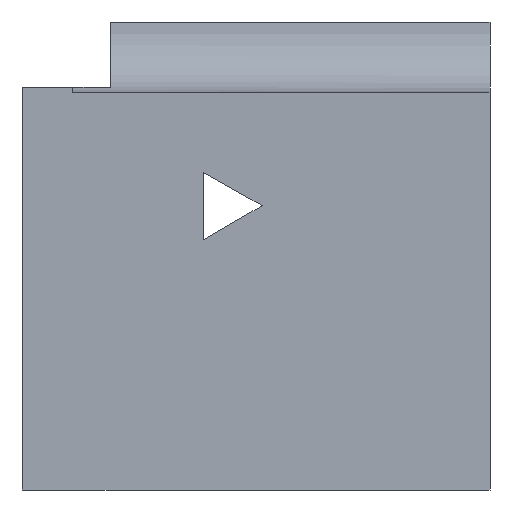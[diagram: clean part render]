
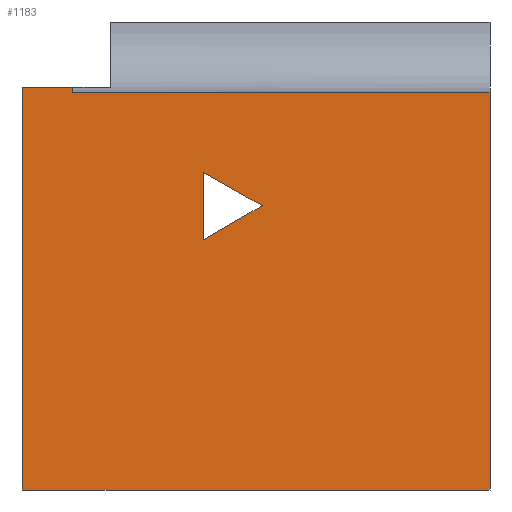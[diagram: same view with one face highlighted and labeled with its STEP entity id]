
A CAD part, front view. The second image highlights one B-rep face of the part: STEP entity #1183.
In plain terms, the highlighted planar face has unit normal (0, -1, 0).
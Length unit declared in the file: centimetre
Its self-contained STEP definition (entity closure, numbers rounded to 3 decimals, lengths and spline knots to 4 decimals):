
#19 = LINE ( 'NONE', #415, #308 ) ;
#36 = FACE_OUTER_BOUND ( 'NONE', #527, .T. ) ;
#37 = CARTESIAN_POINT ( 'NONE',  ( 0., 0., 0. ) ) ;
#72 = CARTESIAN_POINT ( 'NONE',  ( 1000., 0., 849.8948 ) ) ;
#79 = CARTESIAN_POINT ( 'NONE',  ( 388.8256, 0., 678.4747 ) ) ;
#97 = ORIENTED_EDGE ( 'NONE', *, *, #109, .T. ) ;
#109 = EDGE_CURVE ( 'NONE', #918, #299, #19, .T. ) ;
#110 = CARTESIAN_POINT ( 'NONE',  ( 0., 0., 1000. ) ) ;
#119 = VECTOR ( 'NONE', #624, 100. ) ;
#124 = ORIENTED_EDGE ( 'NONE', *, *, #816, .T. ) ;
#128 = EDGE_CURVE ( 'NONE', #413, #1018, #533, .T. ) ;
#139 = DIRECTION ( 'NONE',  ( -1., 0., 0. ) ) ;
#169 = LINE ( 'NONE', #963, #565 ) ;
#171 = EDGE_CURVE ( 'NONE', #827, #888, #426, .T. ) ;
#209 = EDGE_CURVE ( 'NONE', #797, #413, #642, .T. ) ;
#251 = VECTOR ( 'NONE', #1154, 100. ) ;
#299 = VERTEX_POINT ( 'NONE', #558 ) ;
#303 = CARTESIAN_POINT ( 'NONE',  ( 512.8318, 0., 607.5164 ) ) ;
#308 = VECTOR ( 'NONE', #525, 100. ) ;
#331 = LINE ( 'NONE', #509, #836 ) ;
#386 = EDGE_CURVE ( 'NONE', #918, #888, #169, .T. ) ;
#413 = VERTEX_POINT ( 'NONE', #303 ) ;
#415 = CARTESIAN_POINT ( 'NONE',  ( 108.5563, 0., 849.8948 ) ) ;
#426 = LINE ( 'NONE', #830, #725 ) ;
#435 = LINE ( 'NONE', #1127, #581 ) ;
#437 = CARTESIAN_POINT ( 'NONE',  ( 512.8318, 0., 607.5164 ) ) ;
#480 = ORIENTED_EDGE ( 'NONE', *, *, #171, .T. ) ;
#487 = VECTOR ( 'NONE', #139, 100. ) ;
#509 = CARTESIAN_POINT ( 'NONE',  ( 0., 0., 1000. ) ) ;
#525 = DIRECTION ( 'NONE',  ( -1., 0., 0. ) ) ;
#527 = EDGE_LOOP ( 'NONE', ( #807, #97, #1090, #124, #607, #480 ) ) ;
#533 = LINE ( 'NONE', #1228, #119 ) ;
#558 = CARTESIAN_POINT ( 'NONE',  ( 108.5563, 0., 849.8948 ) ) ;
#565 = VECTOR ( 'NONE', #958, 100. ) ;
#581 = VECTOR ( 'NONE', #740, 100. ) ;
#583 = LINE ( 'NONE', #79, #251 ) ;
#607 = ORIENTED_EDGE ( 'NONE', *, *, #1123, .T. ) ;
#624 = DIRECTION ( 'NONE',  ( -0.862, 0., -0.507 ) ) ;
#629 = CARTESIAN_POINT ( 'NONE',  ( 0., 0., 860.9125 ) ) ;
#640 = CARTESIAN_POINT ( 'NONE',  ( 0., 0., 860.9125 ) ) ;
#642 = LINE ( 'NONE', #437, #988 ) ;
#701 = ORIENTED_EDGE ( 'NONE', *, *, #1030, .T. ) ;
#718 = FACE_BOUND ( 'NONE', #1181, .T. ) ;
#725 = VECTOR ( 'NONE', #1141, 100. ) ;
#740 = DIRECTION ( 'NONE',  ( 0., 0., -1. ) ) ;
#741 = CARTESIAN_POINT ( 'NONE',  ( 388.8256, 0., 678.4747 ) ) ;
#771 = VERTEX_POINT ( 'NONE', #629 ) ;
#797 = VERTEX_POINT ( 'NONE', #741 ) ;
#807 = ORIENTED_EDGE ( 'NONE', *, *, #386, .F. ) ;
#816 = EDGE_CURVE ( 'NONE', #831, #771, #850, .T. ) ;
#827 = VERTEX_POINT ( 'NONE', #37 ) ;
#830 = CARTESIAN_POINT ( 'NONE',  ( 0., 0., 0. ) ) ;
#831 = VERTEX_POINT ( 'NONE', #1035 ) ;
#836 = VECTOR ( 'NONE', #1021, 100. ) ;
#850 = LINE ( 'NONE', #640, #487 ) ;
#888 = VERTEX_POINT ( 'NONE', #944 ) ;
#918 = VERTEX_POINT ( 'NONE', #72 ) ;
#944 = CARTESIAN_POINT ( 'NONE',  ( 1000., 0., 0. ) ) ;
#958 = DIRECTION ( 'NONE',  ( 0., 0., -1. ) ) ;
#963 = CARTESIAN_POINT ( 'NONE',  ( 1000., 0., 1000. ) ) ;
#968 = CARTESIAN_POINT ( 'NONE',  ( 388.8256, 0., 534.6479 ) ) ;
#988 = VECTOR ( 'NONE', #1239, 100. ) ;
#1018 = VERTEX_POINT ( 'NONE', #968 ) ;
#1021 = DIRECTION ( 'NONE',  ( 0., 0., -1. ) ) ;
#1026 = ORIENTED_EDGE ( 'NONE', *, *, #128, .T. ) ;
#1030 = EDGE_CURVE ( 'NONE', #1018, #797, #583, .T. ) ;
#1035 = CARTESIAN_POINT ( 'NONE',  ( 108.5563, 0., 860.9125 ) ) ;
#1069 = ORIENTED_EDGE ( 'NONE', *, *, #209, .T. ) ;
#1090 = ORIENTED_EDGE ( 'NONE', *, *, #1232, .F. ) ;
#1106 = DIRECTION ( 'NONE',  ( 0., 0., 1. ) ) ;
#1114 = PLANE ( 'NONE',  #1199 ) ;
#1123 = EDGE_CURVE ( 'NONE', #771, #827, #331, .T. ) ;
#1127 = CARTESIAN_POINT ( 'NONE',  ( 108.5563, 0., 1000. ) ) ;
#1141 = DIRECTION ( 'NONE',  ( 1., 0., 0. ) ) ;
#1154 = DIRECTION ( 'NONE',  ( 0., 0., 1. ) ) ;
#1181 = EDGE_LOOP ( 'NONE', ( #1026, #701, #1069 ) ) ;
#1183 = ADVANCED_FACE ( 'NONE', ( #718, #36 ), #1114, .F. ) ;
#1189 = DIRECTION ( 'NONE',  ( 0., 1., 0. ) ) ;
#1199 = AXIS2_PLACEMENT_3D ( 'NONE', #110, #1189, #1106 ) ;
#1228 = CARTESIAN_POINT ( 'NONE',  ( 388.8256, 0., 534.6479 ) ) ;
#1232 = EDGE_CURVE ( 'NONE', #831, #299, #435, .T. ) ;
#1239 = DIRECTION ( 'NONE',  ( 0.868, 0., -0.497 ) ) ;
